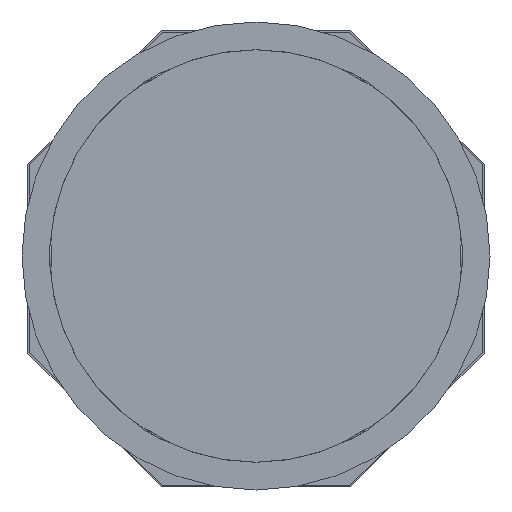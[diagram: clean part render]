
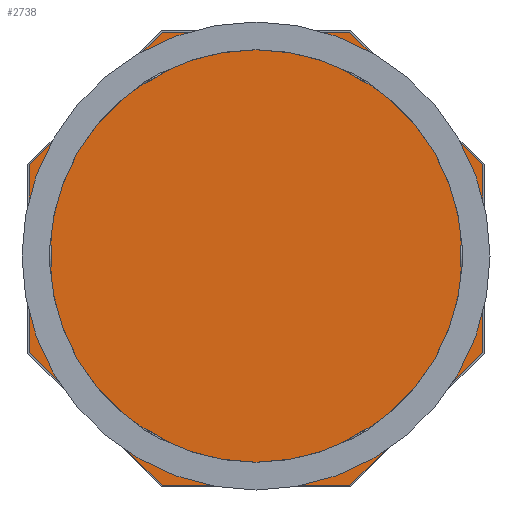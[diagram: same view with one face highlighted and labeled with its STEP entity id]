
A CAD part, front view. The second image highlights one B-rep face of the part: STEP entity #2738.
In plain terms, the highlighted planar face has unit normal (0, -1, 0).
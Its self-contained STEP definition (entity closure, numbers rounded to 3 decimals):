
#2192=DIRECTION('',(-0.707,0.,0.707));
#2193=VECTOR('',#2192,270.896);
#2194=CARTESIAN_POINT('',(-135.448,52.75,-331.));
#2195=LINE('',#2194,#2193);
#2200=DIRECTION('',(0.,0.,1.));
#2201=VECTOR('',#2200,270.896);
#2202=CARTESIAN_POINT('',(-327.,52.75,-139.448));
#2203=LINE('',#2202,#2201);
#2208=DIRECTION('',(0.707,0.,0.707));
#2209=VECTOR('',#2208,270.896);
#2210=CARTESIAN_POINT('',(-327.,52.75,131.448));
#2211=LINE('',#2210,#2209);
#2216=DIRECTION('',(1.,0.,0.));
#2217=VECTOR('',#2216,270.896);
#2218=CARTESIAN_POINT('',(-135.448,52.75,323.));
#2219=LINE('',#2218,#2217);
#2224=DIRECTION('',(0.707,0.,-0.707));
#2225=VECTOR('',#2224,270.896);
#2226=CARTESIAN_POINT('',(135.448,52.75,323.));
#2227=LINE('',#2226,#2225);
#2232=DIRECTION('',(0.,0.,-1.));
#2233=VECTOR('',#2232,270.896);
#2234=CARTESIAN_POINT('',(327.,52.75,131.448));
#2235=LINE('',#2234,#2233);
#2240=DIRECTION('',(-0.707,0.,-0.707));
#2241=VECTOR('',#2240,270.896);
#2242=CARTESIAN_POINT('',(327.,52.75,-139.448));
#2243=LINE('',#2242,#2241);
#2248=DIRECTION('',(-1.,0.,0.));
#2249=VECTOR('',#2248,270.896);
#2250=CARTESIAN_POINT('',(135.448,52.75,-331.));
#2251=LINE('',#2250,#2249);
#2403=CARTESIAN_POINT('',(-135.448,52.75,-331.));
#2404=CARTESIAN_POINT('',(-327.,52.75,-139.448));
#2405=VERTEX_POINT('',#2403);
#2406=VERTEX_POINT('',#2404);
#2407=CARTESIAN_POINT('',(135.448,52.75,-331.));
#2408=VERTEX_POINT('',#2407);
#2409=CARTESIAN_POINT('',(327.,52.75,-139.448));
#2410=VERTEX_POINT('',#2409);
#2411=CARTESIAN_POINT('',(327.,52.75,131.448));
#2412=VERTEX_POINT('',#2411);
#2413=CARTESIAN_POINT('',(135.448,52.75,323.));
#2414=VERTEX_POINT('',#2413);
#2415=CARTESIAN_POINT('',(-135.448,52.75,323.));
#2416=VERTEX_POINT('',#2415);
#2417=CARTESIAN_POINT('',(-327.,52.75,131.448));
#2418=VERTEX_POINT('',#2417);
#2716=CARTESIAN_POINT('',(0.,52.75,0.));
#2717=DIRECTION('',(0.,1.,0.));
#2718=DIRECTION('',(1.,0.,0.));
#2719=AXIS2_PLACEMENT_3D('',#2716,#2717,#2718);
#2720=PLANE('',#2719);
#2721=ORIENTED_EDGE('',*,*,#2706,.T.);
#2723=ORIENTED_EDGE('',*,*,#2722,.T.);
#2725=ORIENTED_EDGE('',*,*,#2724,.T.);
#2727=ORIENTED_EDGE('',*,*,#2726,.T.);
#2729=ORIENTED_EDGE('',*,*,#2728,.T.);
#2731=ORIENTED_EDGE('',*,*,#2730,.T.);
#2733=ORIENTED_EDGE('',*,*,#2732,.T.);
#2735=ORIENTED_EDGE('',*,*,#2734,.T.);
#2736=EDGE_LOOP('',(#2721,#2723,#2725,#2727,#2729,#2731,#2733,#2735));
#2737=FACE_OUTER_BOUND('',#2736,.F.);
#2706=EDGE_CURVE('',#2405,#2406,#2195,.T.);
#2722=EDGE_CURVE('',#2406,#2418,#2203,.T.);
#2724=EDGE_CURVE('',#2418,#2416,#2211,.T.);
#2726=EDGE_CURVE('',#2416,#2414,#2219,.T.);
#2728=EDGE_CURVE('',#2414,#2412,#2227,.T.);
#2730=EDGE_CURVE('',#2412,#2410,#2235,.T.);
#2732=EDGE_CURVE('',#2410,#2408,#2243,.T.);
#2734=EDGE_CURVE('',#2408,#2405,#2251,.T.);
#2738=ADVANCED_FACE('',(#2737),#2720,.F.);
